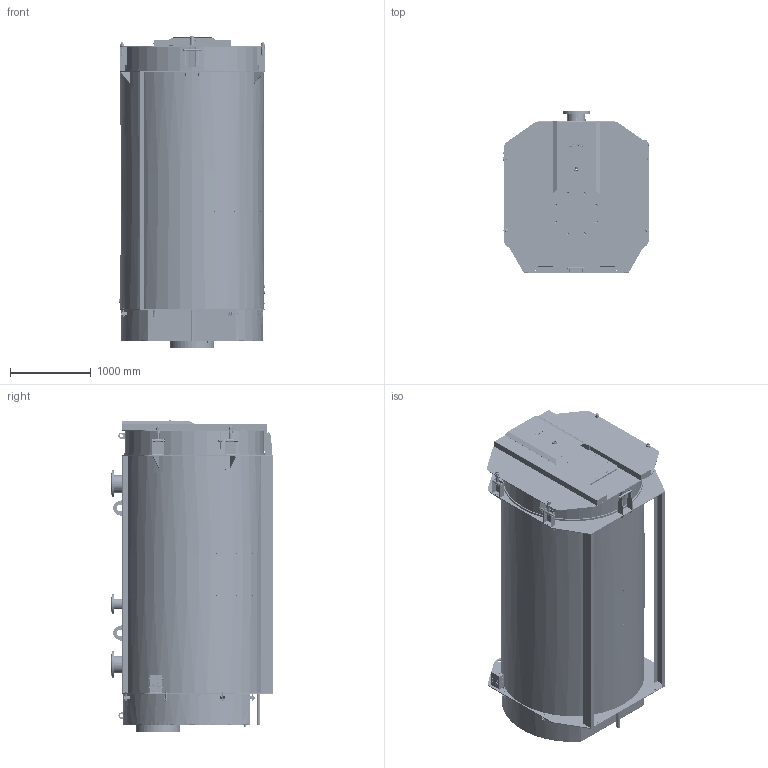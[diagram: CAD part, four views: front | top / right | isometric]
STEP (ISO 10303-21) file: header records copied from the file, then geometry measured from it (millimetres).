
FILE_DESCRIPTION(('STEP AP203'), '1');
FILE_NAME('Êîò¸ë ÒÈÒÀÍ Ïðîì 4 (3,0ÌÂò)', '2024-06-07T09:41:19', (''), (''), 'ASCON STEP Converter 1.6', 'ASCON Math Kernel', '');
FILE_SCHEMA(('CONFIG_CONTROL_DESIGN'));
Length unit declared in the file: millimetre
Products named in the file (126): КЕВМ.3133.00.00.000-02; КЕВМ.3133.01.00.000-02; КЕВМ.3133.01.01.000-02; КЕВМ.3133.01.01.002-02; КЕВМ.3133.01.01.002-12; КЕВМ.3133.01.03.000-13; КЕВМ.3133.01.04.000-02; КЕВМ.3133.01.06.000-02; КЕВМ.3133.01.06.002-02; КЕВМ.3133.01.06.001-02; КЕВМ.3133.01.03.000-03; КЕВМ.3133.01.00.003-02; КЕВМ.3133.01.00.005-12; КЕВМ.3133.01.00.005-22; КЕВМ.3133.01.00.005-42; КЕВМ.3133.01.00.001; КЕВМ.3133.01.00.004-02; КЕВМ.3133.00.00.001-02; КЕВМ.3133.00.00.001-22; КЕВМ.3133.03.00.000-02; КЕВМ.3133.03.01.000-02; КЕВМ.3133.03.01.004-02; КЕВМ.3133.03.01.010; КЕВМ.3133.03.01.007-03; КЕВМ.3133.03.01.008-03; КЕВМ.3133.03.00.001-02; КЕВМ.3133.03.00.003-02; КЕВМ.3133.03.00.004-02; КЕВМ.3133.03.00.004-12; КЕВМ.3133.03.00.005-03; КЕВМ.3133.03.00.002-02; КЕВМ.3133.03.00.001-12; КЕВМ.3133.02.00.000-02; КЕВМ.3133.02.01.000-02; КЕВМ.3133.02.01.001-02; КЕВМ.3133.02.01.002-02; КЕВМ.3133.02.01.005; КЕВМ.3133.02.01.006; КЕВМ.3133.02.01.004-02; КЕВМ.3133.02.01.003-02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
Assembly tree (369 placements, depth 5):
  КЕВМ.3133.00.00.000-02
    КЕВМ.3133.01.00.000-02
      КЕВМ.3133.01.01.000-02
        КЕВМ.3133.01.01.002-02
      КЕВМ.3133.01.01.002-12
      КЕВМ.3133.01.03.000-13
        (unnamed)
        (unnamed)
        (unnamed)
      КЕВМ.3133.01.04.000-02
        (unnamed)
        (unnamed)
      КЕВМ.3133.01.06.000-02  x2
        КЕВМ.3133.01.06.002-02
        КЕВМ.3133.01.06.001-02
      КЕВМ.3133.01.03.000-03
        (unnamed)
        (unnamed)
      (unnamed)
      (unnamed)  x2
      (unnamed)
      КЕВМ.3133.01.00.003-02
      КЕВМ.3133.01.00.003-02
      КЕВМ.3133.01.00.005-12
      КЕВМ.3133.01.00.005-22
      КЕВМ.3133.01.00.005-42
      КЕВМ.3133.01.00.001
      КЕВМ.3133.01.00.004-02  x2
      КЕВМ.3133.01.06.000-02  x2
        КЕВМ.3133.01.06.002-02
        КЕВМ.3133.01.06.001-02
      КЕВМ.3133.01.00.004-02  x2
      (unnamed)  x2
        (unnamed)
        (unnamed)
    КЕВМ.3133.00.00.001-02
    КЕВМ.3133.00.00.001-22
    КЕВМ.3133.03.00.000-02
      КЕВМ.3133.03.01.000-02
        КЕВМ.3133.03.01.004-02
        КЕВМ.3133.03.01.010
        КЕВМ.3133.03.01.007-03  x4
        КЕВМ.3133.03.01.008-03
        КЕВМ.3133.03.01.007-03  x4
      КЕВМ.3133.03.00.001-02
      КЕВМ.3133.03.00.003-02
      КЕВМ.3133.03.00.004-02
      КЕВМ.3133.03.00.004-12
      КЕВМ.3133.03.00.005-03
      КЕВМ.3133.03.00.002-02
      (unnamed)  x4
      (unnamed)  x35
      (unnamed)  x26
      КЕВМ.3133.03.00.001-12
    (unnamed)  x7
    (unnamed)  x9
    (unnamed)
    КЕВМ.3133.02.00.000-02
      КЕВМ.3133.02.01.000-02
        КЕВМ.3133.02.01.001-02
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Bounding box: 1809.16 x 2000 x 3863.43 mm (x, y, z)
Volume: 107996661 mm3; surface area: 76826034.1 mm2
Topology: 411 solids, 411 shells, 11500 faces, 27596 edges, 17795 vertices
Faces by surface type: plane 6013, cylinder 3963, bspline 603, cone 538, torus 358, sphere 17, extrusion 8
Full cylindrical faces by diameter (mm): 1.9 x5, 2 x70, 2.35 x151, 2.459 x4, 2.5 x2, 3 x11, 3.242 x2, 3.5 x17, 4 x167, 4.1 x64, 4.2 x4, 4.5 x8, 4.8 x1, 5 x7, 5.5 x38, 6 x9, 6.3 x4, 6.5 x20, 7 x12, 7.1 x30, 7.5 x1, 7.6 x1, 8 x11, 8.376 x3, 8.5 x6, 9 x3, 9.25 x4, 9.728 x1, 10 x17, 10.106 x8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
Entity records: 372861 total; most frequent: CARTESIAN_POINT 130609, DIRECTION 42867, ORIENTED_EDGE 41802, EDGE_CURVE 20901, AXIS2_PLACEMENT_3D 15152, VERTEX_POINT 14082, VECTOR 12563, LINE 12555
